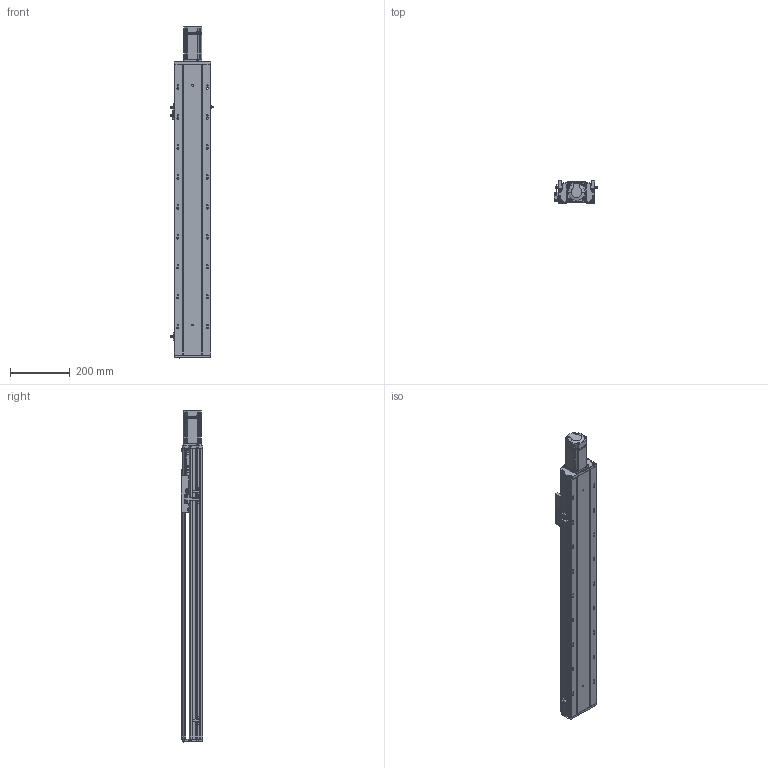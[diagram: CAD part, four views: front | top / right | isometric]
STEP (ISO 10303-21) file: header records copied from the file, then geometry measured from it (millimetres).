
FILE_DESCRIPTION (( 'STEP AP203' ), '1' );
FILE_NAME ('RYK120-L1610-S700-M40-C3-MK.STEP', '2026-03-09T06:49:54', ( '' ), ( '' ), 'SwSTEP 2.0', 'SolidWorks 2016', '' );
FILE_SCHEMA (( 'CONFIG_CONTROL_DESIGN' ));
Length unit declared in the file: millimetre
Products named in the file (17): RY120-16螺母油路-集中注油组合; 侂狟400W侜督萇儂; 2.10.1.C521-V1.0RY120臏賑輸16蹟譫-啞-JZZY-NRL-L1899; RYK120-300-MK-菁釱-啞_700; RY120綴裔啣; 15; RYK120-300-MK-奻裔啣-啞_700; RY120外置感应片(140共用）; RY120电机端支撑座-压铸加工-M5; RY120QGB-1.8; 覜茼ん672; RYK170-薊粣ん芵隴裔啣; 滅袉蝶18-24; CB╱T 3762-1996[锥形润滑油嘴1-ZM10×1]_1-ZM10×1; 滅袉蝶18-10; RYK120-L1610-S700-M40-C3-MK; 44-49-12-14
Assembly tree (21 placements, depth 3):
  RYK120-L1610-S700-M40-C3-MK
    RYK120-300-MK-菁釱-啞_700
    RYK120-300-MK-奻裔啣-啞_700
    RY120綴裔啣
    滅袉蝶18-24  x2
    滅袉蝶18-10  x2
    覜茼ん672  x3
    RY120外置感应片(140共用）
    RY120QGB-1.8
    RY120-16螺母油路-集中注油组合
      2.10.1.C521-V1.0RY120臏賑輸16蹟譫-啞-JZZY-NRL-L1899
      CB╱T 3762-1996[锥形润滑油嘴1-ZM10×1]_1-ZM10×1  x2
    RY120电机端支撑座-压铸加工-M5
    RYK170-薊粣ん芵隴裔啣
    44-49-12-14
    侂狟400W侜督萇儂
      15
Bounding box: 145.7 x 73 x 1108.5 mm (x, y, z)
Volume: 3039844.6 mm3; surface area: 1054689.7 mm2
Topology: 23 solids, 23 shells, 2670 faces, 7446 edges, 4771 vertices
Faces by surface type: plane 1221, cylinder 1059, cone 263, bspline 127
Entity records: 89958 total; most frequent: CARTESIAN_POINT 26444, ORIENTED_EDGE 13408, DIRECTION 12179, EDGE_CURVE 6704, VERTEX_POINT 4383, AXIS2_PLACEMENT_3D 4190, VECTOR 3799, LINE 3799
